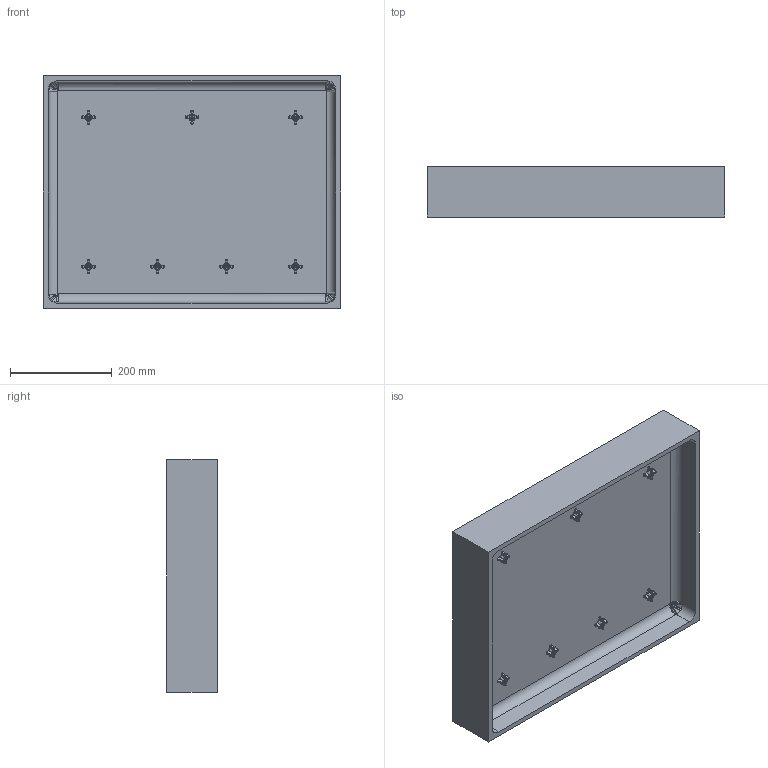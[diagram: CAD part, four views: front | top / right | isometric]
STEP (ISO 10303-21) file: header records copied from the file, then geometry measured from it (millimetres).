
FILE_DESCRIPTION (( 'STEP AP214' ), '1' );
FILE_NAME ('1621-931T-CLR.STEP', '2016-02-29T04:38:44', ( '' ), ( '' ), 'SwSTEP 2.0', 'SolidWorks 2016', '' );
FILE_SCHEMA (( 'AUTOMOTIVE_DESIGN' ));
Length unit declared in the file: inch
Products named in the file (1): 1621-931T-CLR
Bounding box: 585.21 x 99.06 x 456.43 mm (x, y, z)
Volume: 18451803.3 mm3; surface area: 1917367.1 mm2
Topology: 3 solids, 3 shells, 1034 faces, 2563 edges, 1427 vertices
Faces by surface type: bspline 288, plane 206, cylinder 204, torus 140, sphere 119, cone 77
Entity records: 36636 total; most frequent: CARTESIAN_POINT 15170, ORIENTED_EDGE 4844, DIRECTION 4101, EDGE_CURVE 2422, AXIS2_PLACEMENT_3D 1716, VERTEX_POINT 1413, EDGE_LOOP 1053, ADVANCED_FACE 1034
